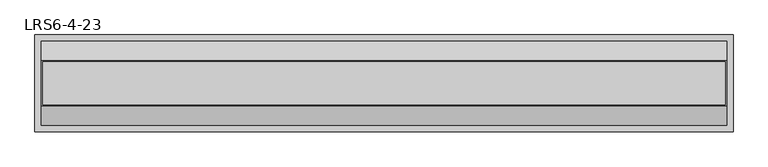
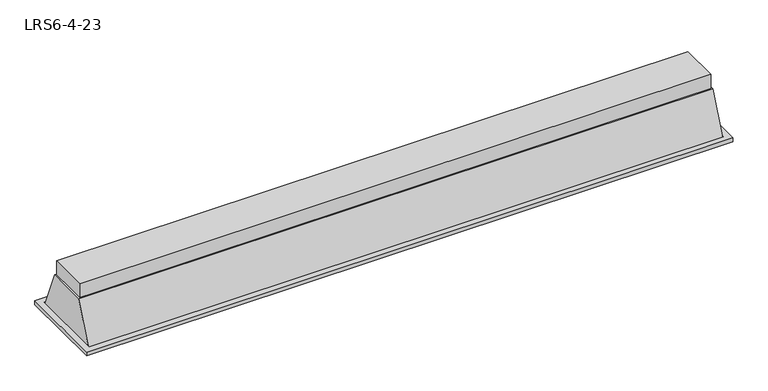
"""IFC4 building model written with IfcOpenShell, lengths in millimetres: light fixture geometry, 20401_RS6_ベースライト形_埋込天井灯 : LRS6-4-23."""

from ifc_helpers import new_model, si_unit, point, frame, frame_2d, origin, place, context, project, spatial, polyline, circle_curve, trimmed, segment, composite_curve, outline, extrude, faceted_brep, source, transform, mapped, element, save


def lrs6_4_23_1f116e95(model_context):
    return source(origin(), model_context, "Body", "SolidModel", [
        faceted_brep([(650.0, -90.0, -8.0), (-650.0, -90.0, -8.0), (-650.0, 90.0, -8.0), (650.0, 90.0, -8.0), (-635.0, -75.0, -8.0), (635.0, -75.0, -8.0), (635.0, 75.0, -8.0), (-635.0, 75.0, -8.0), (635.0, -40.0, 77.0), (-635.0, -40.0, 77.0), (-635.0, 40.0, 77.0), (635.0, 40.0, 77.0), (638.0, -41.7647059, 80.0), (638.0, 41.7647059, 80.0), (-638.0, 41.7647059, 80.0), (-638.0, -41.7647059, 80.0), (638.0, -74.7058824, 0.0), (638.0, 74.7058824, 0.0), (-638.0, 74.7058824, 0.0), (-638.0, -74.7058824, 0.0), (650.0, -90.0, 0.0), (650.0, 90.0, 0.0), (-650.0, 90.0, 0.0), (-650.0, -90.0, 0.0), (638.0, -78.0, 0.0), (-638.0, -78.0, 0.0), (-638.0, 78.0, 0.0), (638.0, 78.0, 0.0), (638.0, -78.0, -8.0), (-638.0, -78.0, -8.0), (-638.0, 78.0, -8.0), (638.0, 78.0, -8.0)], [[[0, 1, 2, 3], [4, 5, 6, 7]], [[8, 9, 10, 11]], [[12, 13, 14, 15]], [[13, 12, 16, 17]], [[6, 5, 8, 11]], [[4, 7, 10, 9]], [[15, 14, 18, 19]], [[20, 21, 22, 23], [24, 25, 19, 18, 26, 27, 17, 16]], [[21, 20, 0, 3]], [[22, 21, 3, 2]], [[23, 22, 2, 1]], [[20, 23, 1, 0]], [[25, 24, 28, 29]], [[25, 29, 19]], [[30, 26, 18]], [[27, 26, 30, 31]], [[28, 24, 16]], [[27, 31, 17]], [[12, 15, 19, 29, 28, 16]], [[5, 4, 9, 8]], [[11, 10, 7, 6]], [[14, 13, 17, 31, 30, 18]]]),
        extrude(outline(polyline([(635.0, 40.0), (635.0, -40.0), (-635.0, -40.0), (-635.0, 40.0), (635.0, 40.0)])), frame((0.0, 0.0, 80.0), z_axis=(0.0, 0.0, 1.0), x_axis=(1.0, 0.0, 0.0)), (0.0, 0.0, 1.0), 30.0),
        extrude(outline(composite_curve([segment(trimmed(circle_curve(frame_2d((0.0, 107.0)), 50.0), [point((40.0, 77.0))], [point((-40.0, 77.0))], False, "CARTESIAN"), True, "CONTINUOUS"), segment(polyline([(-40.0, 77.0), (40.0, 77.0)]), True, "CONTINUOUS")], self_intersect=False)), frame((-635.0, 0.0, 0.0), z_axis=(1.0, 0.0, 0.0), x_axis=(0.0, 1.0, 0.0)), (0.0, 0.0, 1.0), 1270.0),
    ])


if __name__ == "__main__":
    model = new_model("IFC4")
    model_context = context("Model", 3, world=origin())
    ifc_project = project(units=[si_unit("LENGTHUNIT", "METRE", prefix="MILLI")], contexts=[model_context])
    site = spatial("IfcSite", under=ifc_project)
    building = spatial("IfcBuilding", under=site)
    placement = place(None, origin())
    lrs6_4_23_shape = lrs6_4_23_1f116e95(model_context)
    element("IfcLightFixture", 1, ObjectType="20401_RS6_ベースライト形_埋込天井灯 : LRS6-4-23", at=placement, inside=building, context=model_context, shape_type="MappedRepresentation", body=[
        mapped(lrs6_4_23_shape, transform((0.0, 0.0, 0.0), x_axis=(1.0, 0.0, 0.0), y_axis=(0.0, 1.0, 0.0), z_axis=(0.0, 0.0, 1.0))),
    ])
    save(model, "model.ifc")
